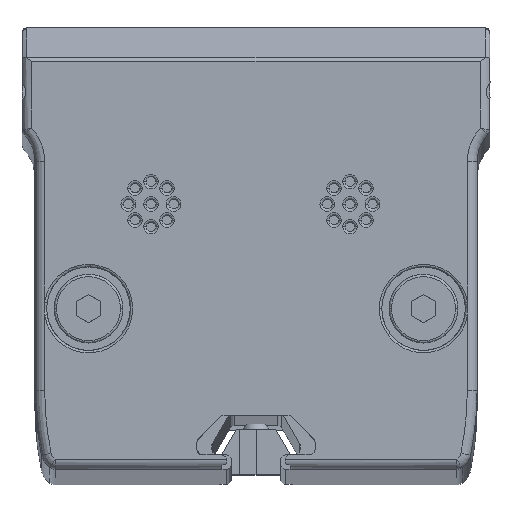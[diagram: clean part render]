
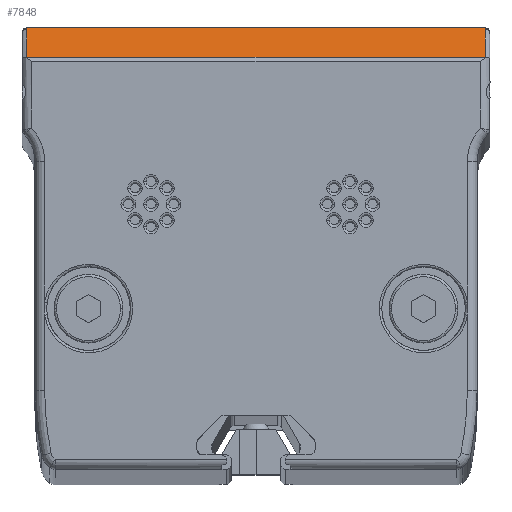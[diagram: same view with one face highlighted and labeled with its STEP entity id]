
A CAD part, top view. The second image highlights one B-rep face of the part: STEP entity #7848.
In plain terms, the highlighted planar face has unit normal (0, 0.858, 0.514).
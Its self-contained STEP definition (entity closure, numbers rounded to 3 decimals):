
#108 = CARTESIAN_POINT ( 'NONE',  ( 23.274, 22.429, 879.914 ) ) ;
#1225 = VECTOR ( 'NONE', #24998, 1000. ) ;
#1935 = FACE_OUTER_BOUND ( 'NONE', #13519, .T. ) ;
#2804 = CARTESIAN_POINT ( 'NONE',  ( 23.315, 22.329, 880.08 ) ) ;
#3225 = VERTEX_POINT ( 'NONE', #3541 ) ;
#3246 =( BOUNDED_CURVE ( )  B_SPLINE_CURVE ( 3, ( #18158, #26779, #17728, #20117 ),
 .UNSPECIFIED., .F., .F. ) 
 B_SPLINE_CURVE_WITH_KNOTS ( ( 4, 4 ),
 ( 6.283, 6.283 ),
 .UNSPECIFIED. ) 
 CURVE ( )  GEOMETRIC_REPRESENTATION_ITEM ( )  RATIONAL_B_SPLINE_CURVE ( ( 1., 1., 1., 1. ) ) 
 REPRESENTATION_ITEM ( '' )  );
#3541 = CARTESIAN_POINT ( 'NONE',  ( -23.215, 22.429, 879.914 ) ) ;
#4436 = CARTESIAN_POINT ( 'NONE',  ( -23.315, 22.329, 880.08 ) ) ;
#4521 = CARTESIAN_POINT ( 'NONE',  ( 23.215, 22.429, 879.914 ) ) ;
#5190 = VERTEX_POINT ( 'NONE', #22185 ) ;
#5475 = ORIENTED_EDGE ( 'NONE', *, *, #5729, .T. ) ;
#5729 = EDGE_CURVE ( 'NONE', #6607, #14835, #25608, .T. ) ;
#6607 = VERTEX_POINT ( 'NONE', #13975 ) ;
#7197 = ORIENTED_EDGE ( 'NONE', *, *, #7951, .T. ) ;
#7420 = VERTEX_POINT ( 'NONE', #4521 ) ;
#7697 = CARTESIAN_POINT ( 'NONE',  ( 23.315, 19.287, 885.15 ) ) ;
#7848 = ADVANCED_FACE ( 'NONE', ( #1935 ), #8607, .F. ) ;
#7863 = DIRECTION ( 'NONE',  ( -1., 0., 0. ) ) ;
#7927 = ORIENTED_EDGE ( 'NONE', *, *, #13163, .T. ) ;
#7951 = EDGE_CURVE ( 'NONE', #5190, #7420, #24482, .T. ) ;
#8002 = CARTESIAN_POINT ( 'NONE',  ( -23.215, 22.429, 879.914 ) ) ;
#8147 = ORIENTED_EDGE ( 'NONE', *, *, #21815, .T. ) ;
#8288 = VECTOR ( 'NONE', #11856, 1000. ) ;
#8607 = PLANE ( 'NONE',  #9771 ) ;
#9334 = VECTOR ( 'NONE', #7863, 1000. ) ;
#9630 = CARTESIAN_POINT ( 'NONE',  ( 23.315, 22.387, 879.983 ) ) ;
#9771 = AXIS2_PLACEMENT_3D ( 'NONE', #11123, #13031, #24183 ) ;
#10103 = LINE ( 'NONE', #19144, #9334 ) ;
#10350 = VERTEX_POINT ( 'NONE', #17306 ) ;
#10963 = CARTESIAN_POINT ( 'NONE',  ( -23.315, 22.387, 879.983 ) ) ;
#11123 = CARTESIAN_POINT ( 'NONE',  ( 23.82, 19.287, 885.15 ) ) ;
#11856 = DIRECTION ( 'NONE',  ( 0., 0.514, -0.857 ) ) ;
#13031 = DIRECTION ( 'NONE',  ( 0., -0.857, -0.514 ) ) ;
#13163 = EDGE_CURVE ( 'NONE', #3225, #18184, #22403, .T. ) ;
#13519 = EDGE_LOOP ( 'NONE', ( #5475, #15720, #7197, #8147, #15145, #7927, #22232 ) ) ;
#13975 = CARTESIAN_POINT ( 'NONE',  ( -23.315, 19.433, 884.907 ) ) ;
#14460 = CARTESIAN_POINT ( 'NONE',  ( 23.315, 19.433, 884.907 ) ) ;
#14835 = VERTEX_POINT ( 'NONE', #14460 ) ;
#15145 = ORIENTED_EDGE ( 'NONE', *, *, #25728, .T. ) ;
#15357 = VECTOR ( 'NONE', #28265, 1000. ) ;
#15720 = ORIENTED_EDGE ( 'NONE', *, *, #20102, .T. ) ;
#16315 = LINE ( 'NONE', #7697, #8288 ) ;
#17306 = CARTESIAN_POINT ( 'NONE',  ( 23.215, 22.429, 879.914 ) ) ;
#17728 = CARTESIAN_POINT ( 'NONE',  ( 23.215, 22.429, 879.914 ) ) ;
#18158 = CARTESIAN_POINT ( 'NONE',  ( 23.215, 22.429, 879.914 ) ) ;
#18184 = VERTEX_POINT ( 'NONE', #23991 ) ;
#18323 = LINE ( 'NONE', #22622, #1225 ) ;
#18678 = CARTESIAN_POINT ( 'NONE',  ( 23.215, 22.429, 879.914 ) ) ;
#19144 = CARTESIAN_POINT ( 'NONE',  ( -23.215, 22.429, 879.914 ) ) ;
#19234 = CARTESIAN_POINT ( 'NONE',  ( 23.82, 19.433, 884.907 ) ) ;
#20102 = EDGE_CURVE ( 'NONE', #14835, #5190, #16315, .T. ) ;
#20117 = CARTESIAN_POINT ( 'NONE',  ( 23.215, 22.429, 879.914 ) ) ;
#21815 = EDGE_CURVE ( 'NONE', #7420, #10350, #3246, .T. ) ;
#22185 = CARTESIAN_POINT ( 'NONE',  ( 23.315, 22.329, 880.08 ) ) ;
#22232 = ORIENTED_EDGE ( 'NONE', *, *, #24476, .T. ) ;
#22403 =( BOUNDED_CURVE ( )  B_SPLINE_CURVE ( 3, ( #8002, #25047, #10963, #4436 ),
 .UNSPECIFIED., .F., .F. ) 
 B_SPLINE_CURVE_WITH_KNOTS ( ( 4, 4 ),
 ( 0., 1.571 ),
 .UNSPECIFIED. ) 
 CURVE ( )  GEOMETRIC_REPRESENTATION_ITEM ( )  RATIONAL_B_SPLINE_CURVE ( ( 1., 0.805, 0.805, 1. ) ) 
 REPRESENTATION_ITEM ( '' )  );
#22622 = CARTESIAN_POINT ( 'NONE',  ( -23.315, 19.287, 885.15 ) ) ;
#23991 = CARTESIAN_POINT ( 'NONE',  ( -23.315, 22.329, 880.08 ) ) ;
#24183 = DIRECTION ( 'NONE',  ( 0., 0.514, -0.857 ) ) ;
#24476 = EDGE_CURVE ( 'NONE', #18184, #6607, #18323, .T. ) ;
#24482 =( BOUNDED_CURVE ( )  B_SPLINE_CURVE ( 3, ( #2804, #9630, #108, #18678 ),
 .UNSPECIFIED., .F., .T. ) 
 B_SPLINE_CURVE_WITH_KNOTS ( ( 4, 4 ),
 ( 4.712, 6.283 ),
 .UNSPECIFIED. ) 
 CURVE ( )  GEOMETRIC_REPRESENTATION_ITEM ( )  RATIONAL_B_SPLINE_CURVE ( ( 1., 0.805, 0.805, 1. ) ) 
 REPRESENTATION_ITEM ( '' )  );
#24998 = DIRECTION ( 'NONE',  ( 0., -0.514, 0.857 ) ) ;
#25047 = CARTESIAN_POINT ( 'NONE',  ( -23.274, 22.429, 879.914 ) ) ;
#25608 = LINE ( 'NONE', #19234, #15357 ) ;
#25728 = EDGE_CURVE ( 'NONE', #10350, #3225, #10103, .T. ) ;
#26779 = CARTESIAN_POINT ( 'NONE',  ( 23.215, 22.429, 879.914 ) ) ;
#28265 = DIRECTION ( 'NONE',  ( 1., 0., 0. ) ) ;
